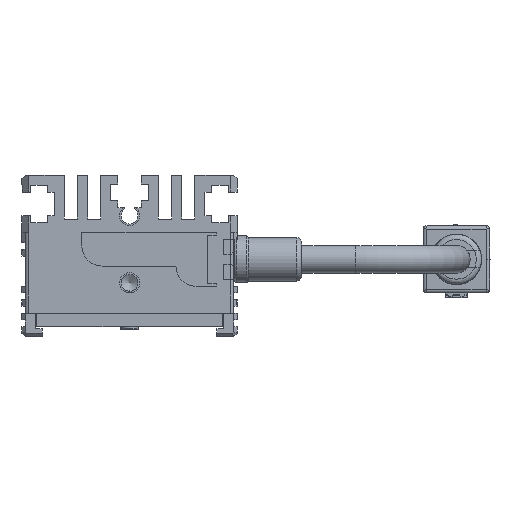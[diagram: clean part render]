
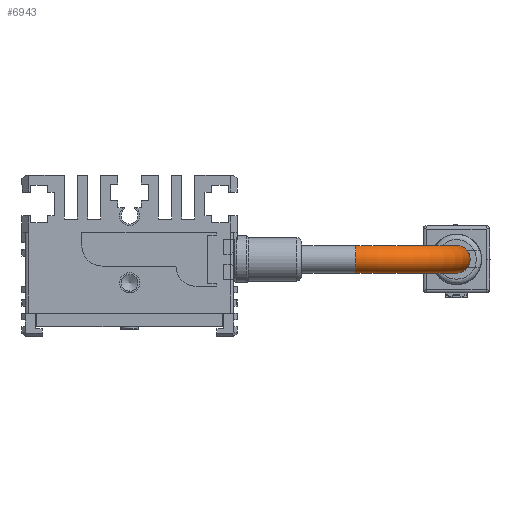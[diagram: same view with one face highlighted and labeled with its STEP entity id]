
A CAD part, front view. The second image highlights one B-rep face of the part: STEP entity #6943.
In plain terms, the highlighted toroidal (fillet/blend) face has major radius 15 mm and minor radius 2.05 mm.
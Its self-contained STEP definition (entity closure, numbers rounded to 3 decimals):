
#1268 = TOROIDAL_SURFACE ( 'NONE', #8870, 15., 2.05 ) ;
#1377 = VERTEX_POINT ( 'NONE', #3956 ) ;
#1422 = AXIS2_PLACEMENT_3D ( 'NONE', #17132, #4502, #15963 ) ;
#3956 = CARTESIAN_POINT ( 'NONE',  ( 33.6, -181.65, 0. ) ) ;
#4502 = DIRECTION ( 'NONE',  ( -1., 0., 0. ) ) ;
#4715 = DIRECTION ( 'NONE',  ( 0., 0., -1. ) ) ;
#5264 = VERTEX_POINT ( 'NONE', #18566 ) ;
#5419 = CARTESIAN_POINT ( 'NONE',  ( 48.6, -168.7, 0. ) ) ;
#6943 = ADVANCED_FACE ( 'NONE', ( #7928, #13186 ), #1268, .T. ) ;
#7928 = FACE_OUTER_BOUND ( 'NONE', #15718, .T. ) ;
#8388 = DIRECTION ( 'NONE',  ( -1., 0., 0. ) ) ;
#8820 = CIRCLE ( 'NONE', #1422, 2.05 ) ;
#8870 = AXIS2_PLACEMENT_3D ( 'NONE', #17837, #4715, #13818 ) ;
#12952 = ORIENTED_EDGE ( 'NONE', *, *, #18880, .F. ) ;
#13186 = FACE_OUTER_BOUND ( 'NONE', #13867, .T. ) ;
#13293 = CIRCLE ( 'NONE', #14039, 2.05 ) ;
#13818 = DIRECTION ( 'NONE',  ( 0., -1., 0. ) ) ;
#13867 = EDGE_LOOP ( 'NONE', ( #18863 ) ) ;
#14039 = AXIS2_PLACEMENT_3D ( 'NONE', #5419, #18589, #8388 ) ;
#15718 = EDGE_LOOP ( 'NONE', ( #12952 ) ) ;
#15963 = DIRECTION ( 'NONE',  ( 0., 1., 0. ) ) ;
#17132 = CARTESIAN_POINT ( 'NONE',  ( 33.6, -183.7, 0. ) ) ;
#17837 = CARTESIAN_POINT ( 'NONE',  ( 33.6, -168.7, 0. ) ) ;
#18310 = EDGE_CURVE ( 'NONE', #5264, #5264, #13293, .T. ) ;
#18566 = CARTESIAN_POINT ( 'NONE',  ( 46.55, -168.7, 0. ) ) ;
#18589 = DIRECTION ( 'NONE',  ( 0., -1., 0. ) ) ;
#18863 = ORIENTED_EDGE ( 'NONE', *, *, #18310, .T. ) ;
#18880 = EDGE_CURVE ( 'NONE', #1377, #1377, #8820, .T. ) ;
